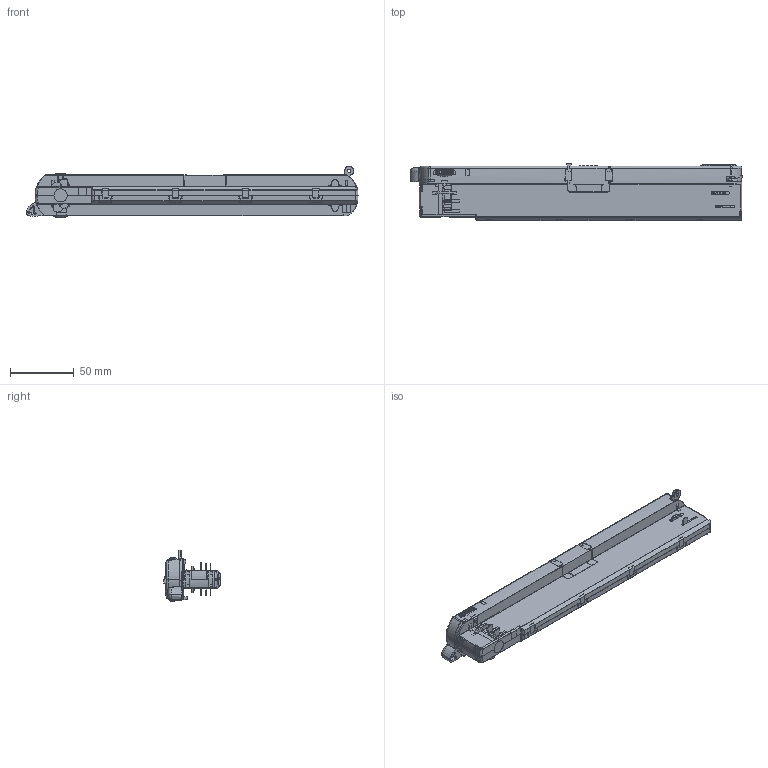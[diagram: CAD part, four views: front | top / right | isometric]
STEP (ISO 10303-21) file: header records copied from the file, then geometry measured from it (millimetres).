
FILE_DESCRIPTION (( 'STEP AP203' ), '1' );
FILE_NAME ('PULSE GAC616_Dummy.STEP', '2017-10-05T08:53:34', ( '' ), ( '' ), 'SwSTEP 2.0', 'SolidWorks 2017', '' );
FILE_SCHEMA (( 'CONFIG_CONTROL_DESIGN' ));
Length unit declared in the file: millimetre
Products named in the file (1): PULSE GAC616_Dummy
Bounding box: 260.07 x 44.7 x 40.42 mm (x, y, z)
Volume: 205791 mm3; surface area: 39741.9 mm2
Topology: 1 solids, 4 shells, 1512 faces, 4132 edges, 2612 vertices
Faces by surface type: plane 649, cylinder 445, bspline 316, torus 59, cone 25, sphere 18
Entity records: 59789 total; most frequent: CARTESIAN_POINT 26044, ORIENTED_EDGE 8174, DIRECTION 5538, EDGE_CURVE 4087, VERTEX_POINT 2610, LINE 2044, VECTOR 2044, AXIS2_PLACEMENT_3D 1747
